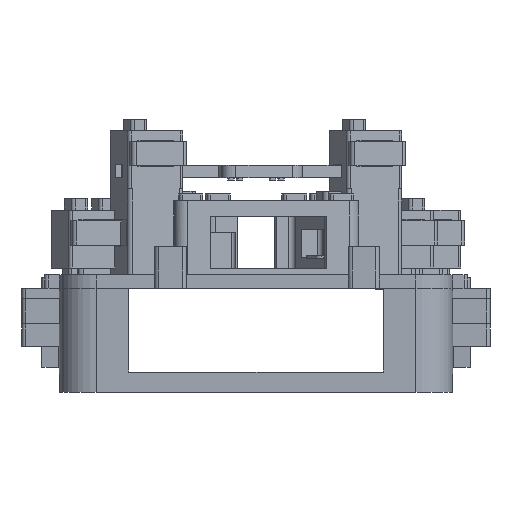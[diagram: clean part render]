
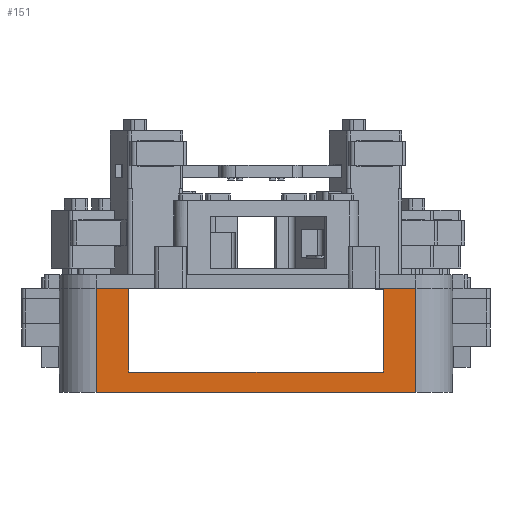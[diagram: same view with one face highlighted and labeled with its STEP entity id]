
A CAD part, left-side view. The second image highlights one B-rep face of the part: STEP entity #151.
In plain terms, the highlighted planar face has unit normal (-1, 0, 0).
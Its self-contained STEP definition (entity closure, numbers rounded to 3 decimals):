
#151 = ADVANCED_FACE('',(#152),#166,.F.);
#152 = FACE_BOUND('',#153,.F.);
#153 = EDGE_LOOP('',(#154,#189,#217,#245,#273,#301,#329,#357));
#154 = ORIENTED_EDGE('',*,*,#155,.F.);
#155 = EDGE_CURVE('',#156,#158,#160,.T.);
#156 = VERTEX_POINT('',#157);
#157 = CARTESIAN_POINT('',(-52.3,-28.3,18.4));
#158 = VERTEX_POINT('',#159);
#159 = CARTESIAN_POINT('',(-52.3,-22.5,18.4));
#160 = SURFACE_CURVE('',#161,(#165,#177),.PCURVE_S1.);
#161 = LINE('',#162,#163);
#162 = CARTESIAN_POINT('',(-52.3,-34.8,18.4));
#163 = VECTOR('',#164,1.);
#164 = DIRECTION('',(0.,1.,0.));
#165 = PCURVE('',#166,#171);
#166 = PLANE('',#167);
#167 = AXIS2_PLACEMENT_3D('',#168,#169,#170);
#168 = CARTESIAN_POINT('',(-52.3,-34.8,0.));
#169 = DIRECTION('',(1.,0.,0.));
#170 = DIRECTION('',(0.,0.,1.));
#171 = DEFINITIONAL_REPRESENTATION('',(#172),#176);
#172 = LINE('',#173,#174);
#173 = CARTESIAN_POINT('',(18.4,0.));
#174 = VECTOR('',#175,1.);
#175 = DIRECTION('',(0.,-1.));
#176 = ( GEOMETRIC_REPRESENTATION_CONTEXT(2) 
PARAMETRIC_REPRESENTATION_CONTEXT() REPRESENTATION_CONTEXT('2D SPACE',''
  ) );
#177 = PCURVE('',#178,#183);
#178 = PLANE('',#179);
#179 = AXIS2_PLACEMENT_3D('',#180,#181,#182);
#180 = CARTESIAN_POINT('',(-52.3,-34.8,18.4));
#181 = DIRECTION('',(0.,0.,1.));
#182 = DIRECTION('',(1.,0.,-0.));
#183 = DEFINITIONAL_REPRESENTATION('',(#184),#188);
#184 = LINE('',#185,#186);
#185 = CARTESIAN_POINT('',(0.,0.));
#186 = VECTOR('',#187,1.);
#187 = DIRECTION('',(0.,1.));
#188 = ( GEOMETRIC_REPRESENTATION_CONTEXT(2) 
PARAMETRIC_REPRESENTATION_CONTEXT() REPRESENTATION_CONTEXT('2D SPACE',''
  ) );
#189 = ORIENTED_EDGE('',*,*,#190,.F.);
#190 = EDGE_CURVE('',#191,#156,#193,.T.);
#191 = VERTEX_POINT('',#192);
#192 = CARTESIAN_POINT('',(-52.3,-28.3,0.));
#193 = SURFACE_CURVE('',#194,(#198,#205),.PCURVE_S1.);
#194 = LINE('',#195,#196);
#195 = CARTESIAN_POINT('',(-52.3,-28.3,0.));
#196 = VECTOR('',#197,1.);
#197 = DIRECTION('',(0.,0.,1.));
#198 = PCURVE('',#166,#199);
#199 = DEFINITIONAL_REPRESENTATION('',(#200),#204);
#200 = LINE('',#201,#202);
#201 = CARTESIAN_POINT('',(0.,-6.5));
#202 = VECTOR('',#203,1.);
#203 = DIRECTION('',(1.,0.));
#204 = ( GEOMETRIC_REPRESENTATION_CONTEXT(2) 
PARAMETRIC_REPRESENTATION_CONTEXT() REPRESENTATION_CONTEXT('2D SPACE',''
  ) );
#205 = PCURVE('',#206,#211);
#206 = CYLINDRICAL_SURFACE('',#207,6.5);
#207 = AXIS2_PLACEMENT_3D('',#208,#209,#210);
#208 = CARTESIAN_POINT('',(-45.8,-28.3,0.));
#209 = DIRECTION('',(0.,0.,1.));
#210 = DIRECTION('',(-1.,-0.,0.));
#211 = DEFINITIONAL_REPRESENTATION('',(#212),#216);
#212 = LINE('',#213,#214);
#213 = CARTESIAN_POINT('',(0.,0.));
#214 = VECTOR('',#215,1.);
#215 = DIRECTION('',(0.,1.));
#216 = ( GEOMETRIC_REPRESENTATION_CONTEXT(2) 
PARAMETRIC_REPRESENTATION_CONTEXT() REPRESENTATION_CONTEXT('2D SPACE',''
  ) );
#217 = ORIENTED_EDGE('',*,*,#218,.T.);
#218 = EDGE_CURVE('',#191,#219,#221,.T.);
#219 = VERTEX_POINT('',#220);
#220 = CARTESIAN_POINT('',(-52.3,28.3,0.));
#221 = SURFACE_CURVE('',#222,(#226,#233),.PCURVE_S1.);
#222 = LINE('',#223,#224);
#223 = CARTESIAN_POINT('',(-52.3,-34.8,0.));
#224 = VECTOR('',#225,1.);
#225 = DIRECTION('',(0.,1.,0.));
#226 = PCURVE('',#166,#227);
#227 = DEFINITIONAL_REPRESENTATION('',(#228),#232);
#228 = LINE('',#229,#230);
#229 = CARTESIAN_POINT('',(0.,0.));
#230 = VECTOR('',#231,1.);
#231 = DIRECTION('',(0.,-1.));
#232 = ( GEOMETRIC_REPRESENTATION_CONTEXT(2) 
PARAMETRIC_REPRESENTATION_CONTEXT() REPRESENTATION_CONTEXT('2D SPACE',''
  ) );
#233 = PCURVE('',#234,#239);
#234 = PLANE('',#235);
#235 = AXIS2_PLACEMENT_3D('',#236,#237,#238);
#236 = CARTESIAN_POINT('',(-52.3,-34.8,0.));
#237 = DIRECTION('',(0.,0.,1.));
#238 = DIRECTION('',(1.,0.,-0.));
#239 = DEFINITIONAL_REPRESENTATION('',(#240),#244);
#240 = LINE('',#241,#242);
#241 = CARTESIAN_POINT('',(0.,0.));
#242 = VECTOR('',#243,1.);
#243 = DIRECTION('',(0.,1.));
#244 = ( GEOMETRIC_REPRESENTATION_CONTEXT(2) 
PARAMETRIC_REPRESENTATION_CONTEXT() REPRESENTATION_CONTEXT('2D SPACE',''
  ) );
#245 = ORIENTED_EDGE('',*,*,#246,.T.);
#246 = EDGE_CURVE('',#219,#247,#249,.T.);
#247 = VERTEX_POINT('',#248);
#248 = CARTESIAN_POINT('',(-52.3,28.3,18.4));
#249 = SURFACE_CURVE('',#250,(#254,#261),.PCURVE_S1.);
#250 = LINE('',#251,#252);
#251 = CARTESIAN_POINT('',(-52.3,28.3,0.));
#252 = VECTOR('',#253,1.);
#253 = DIRECTION('',(0.,0.,1.));
#254 = PCURVE('',#166,#255);
#255 = DEFINITIONAL_REPRESENTATION('',(#256),#260);
#256 = LINE('',#257,#258);
#257 = CARTESIAN_POINT('',(0.,-63.1));
#258 = VECTOR('',#259,1.);
#259 = DIRECTION('',(1.,0.));
#260 = ( GEOMETRIC_REPRESENTATION_CONTEXT(2) 
PARAMETRIC_REPRESENTATION_CONTEXT() REPRESENTATION_CONTEXT('2D SPACE',''
  ) );
#261 = PCURVE('',#262,#267);
#262 = CYLINDRICAL_SURFACE('',#263,6.5);
#263 = AXIS2_PLACEMENT_3D('',#264,#265,#266);
#264 = CARTESIAN_POINT('',(-45.8,28.3,0.));
#265 = DIRECTION('',(0.,0.,1.));
#266 = DIRECTION('',(-1.,-0.,0.));
#267 = DEFINITIONAL_REPRESENTATION('',(#268),#272);
#268 = LINE('',#269,#270);
#269 = CARTESIAN_POINT('',(6.283,0.));
#270 = VECTOR('',#271,1.);
#271 = DIRECTION('',(-0.,1.));
#272 = ( GEOMETRIC_REPRESENTATION_CONTEXT(2) 
PARAMETRIC_REPRESENTATION_CONTEXT() REPRESENTATION_CONTEXT('2D SPACE',''
  ) );
#273 = ORIENTED_EDGE('',*,*,#274,.F.);
#274 = EDGE_CURVE('',#275,#247,#277,.T.);
#275 = VERTEX_POINT('',#276);
#276 = CARTESIAN_POINT('',(-52.3,22.5,18.4));
#277 = SURFACE_CURVE('',#278,(#282,#289),.PCURVE_S1.);
#278 = LINE('',#279,#280);
#279 = CARTESIAN_POINT('',(-52.3,-34.8,18.4));
#280 = VECTOR('',#281,1.);
#281 = DIRECTION('',(0.,1.,0.));
#282 = PCURVE('',#166,#283);
#283 = DEFINITIONAL_REPRESENTATION('',(#284),#288);
#284 = LINE('',#285,#286);
#285 = CARTESIAN_POINT('',(18.4,0.));
#286 = VECTOR('',#287,1.);
#287 = DIRECTION('',(0.,-1.));
#288 = ( GEOMETRIC_REPRESENTATION_CONTEXT(2) 
PARAMETRIC_REPRESENTATION_CONTEXT() REPRESENTATION_CONTEXT('2D SPACE',''
  ) );
#289 = PCURVE('',#290,#295);
#290 = PLANE('',#291);
#291 = AXIS2_PLACEMENT_3D('',#292,#293,#294);
#292 = CARTESIAN_POINT('',(-52.3,-34.8,18.4));
#293 = DIRECTION('',(0.,0.,1.));
#294 = DIRECTION('',(1.,0.,-0.));
#295 = DEFINITIONAL_REPRESENTATION('',(#296),#300);
#296 = LINE('',#297,#298);
#297 = CARTESIAN_POINT('',(0.,0.));
#298 = VECTOR('',#299,1.);
#299 = DIRECTION('',(0.,1.));
#300 = ( GEOMETRIC_REPRESENTATION_CONTEXT(2) 
PARAMETRIC_REPRESENTATION_CONTEXT() REPRESENTATION_CONTEXT('2D SPACE',''
  ) );
#301 = ORIENTED_EDGE('',*,*,#302,.F.);
#302 = EDGE_CURVE('',#303,#275,#305,.T.);
#303 = VERTEX_POINT('',#304);
#304 = CARTESIAN_POINT('',(-52.3,22.5,3.6));
#305 = SURFACE_CURVE('',#306,(#310,#317),.PCURVE_S1.);
#306 = LINE('',#307,#308);
#307 = CARTESIAN_POINT('',(-52.3,22.5,1.8));
#308 = VECTOR('',#309,1.);
#309 = DIRECTION('',(0.,0.,1.));
#310 = PCURVE('',#166,#311);
#311 = DEFINITIONAL_REPRESENTATION('',(#312),#316);
#312 = LINE('',#313,#314);
#313 = CARTESIAN_POINT('',(1.8,-57.3));
#314 = VECTOR('',#315,1.);
#315 = DIRECTION('',(1.,0.));
#316 = ( GEOMETRIC_REPRESENTATION_CONTEXT(2) 
PARAMETRIC_REPRESENTATION_CONTEXT() REPRESENTATION_CONTEXT('2D SPACE',''
  ) );
#317 = PCURVE('',#318,#323);
#318 = PLANE('',#319);
#319 = AXIS2_PLACEMENT_3D('',#320,#321,#322);
#320 = CARTESIAN_POINT('',(-61.3,22.5,3.6));
#321 = DIRECTION('',(0.,1.,0.));
#322 = DIRECTION('',(0.,-0.,1.));
#323 = DEFINITIONAL_REPRESENTATION('',(#324),#328);
#324 = LINE('',#325,#326);
#325 = CARTESIAN_POINT('',(-1.8,9.));
#326 = VECTOR('',#327,1.);
#327 = DIRECTION('',(1.,0.));
#328 = ( GEOMETRIC_REPRESENTATION_CONTEXT(2) 
PARAMETRIC_REPRESENTATION_CONTEXT() REPRESENTATION_CONTEXT('2D SPACE',''
  ) );
#329 = ORIENTED_EDGE('',*,*,#330,.T.);
#330 = EDGE_CURVE('',#303,#331,#333,.T.);
#331 = VERTEX_POINT('',#332);
#332 = CARTESIAN_POINT('',(-52.3,-22.5,3.6));
#333 = SURFACE_CURVE('',#334,(#338,#345),.PCURVE_S1.);
#334 = LINE('',#335,#336);
#335 = CARTESIAN_POINT('',(-52.3,-28.65,3.6));
#336 = VECTOR('',#337,1.);
#337 = DIRECTION('',(0.,-1.,0.));
#338 = PCURVE('',#166,#339);
#339 = DEFINITIONAL_REPRESENTATION('',(#340),#344);
#340 = LINE('',#341,#342);
#341 = CARTESIAN_POINT('',(3.6,-6.15));
#342 = VECTOR('',#343,1.);
#343 = DIRECTION('',(0.,1.));
#344 = ( GEOMETRIC_REPRESENTATION_CONTEXT(2) 
PARAMETRIC_REPRESENTATION_CONTEXT() REPRESENTATION_CONTEXT('2D SPACE',''
  ) );
#345 = PCURVE('',#346,#351);
#346 = PLANE('',#347);
#347 = AXIS2_PLACEMENT_3D('',#348,#349,#350);
#348 = CARTESIAN_POINT('',(-61.3,-22.5,3.6));
#349 = DIRECTION('',(0.,0.,1.));
#350 = DIRECTION('',(1.,0.,-0.));
#351 = DEFINITIONAL_REPRESENTATION('',(#352),#356);
#352 = LINE('',#353,#354);
#353 = CARTESIAN_POINT('',(9.,-6.15));
#354 = VECTOR('',#355,1.);
#355 = DIRECTION('',(0.,-1.));
#356 = ( GEOMETRIC_REPRESENTATION_CONTEXT(2) 
PARAMETRIC_REPRESENTATION_CONTEXT() REPRESENTATION_CONTEXT('2D SPACE',''
  ) );
#357 = ORIENTED_EDGE('',*,*,#358,.T.);
#358 = EDGE_CURVE('',#331,#158,#359,.T.);
#359 = SURFACE_CURVE('',#360,(#364,#371),.PCURVE_S1.);
#360 = LINE('',#361,#362);
#361 = CARTESIAN_POINT('',(-52.3,-22.5,1.8));
#362 = VECTOR('',#363,1.);
#363 = DIRECTION('',(0.,0.,1.));
#364 = PCURVE('',#166,#365);
#365 = DEFINITIONAL_REPRESENTATION('',(#366),#370);
#366 = LINE('',#367,#368);
#367 = CARTESIAN_POINT('',(1.8,-12.3));
#368 = VECTOR('',#369,1.);
#369 = DIRECTION('',(1.,0.));
#370 = ( GEOMETRIC_REPRESENTATION_CONTEXT(2) 
PARAMETRIC_REPRESENTATION_CONTEXT() REPRESENTATION_CONTEXT('2D SPACE',''
  ) );
#371 = PCURVE('',#372,#377);
#372 = PLANE('',#373);
#373 = AXIS2_PLACEMENT_3D('',#374,#375,#376);
#374 = CARTESIAN_POINT('',(-61.3,-22.5,3.6));
#375 = DIRECTION('',(0.,1.,0.));
#376 = DIRECTION('',(0.,-0.,1.));
#377 = DEFINITIONAL_REPRESENTATION('',(#378),#382);
#378 = LINE('',#379,#380);
#379 = CARTESIAN_POINT('',(-1.8,9.));
#380 = VECTOR('',#381,1.);
#381 = DIRECTION('',(1.,0.));
#382 = ( GEOMETRIC_REPRESENTATION_CONTEXT(2) 
PARAMETRIC_REPRESENTATION_CONTEXT() REPRESENTATION_CONTEXT('2D SPACE',''
  ) );
